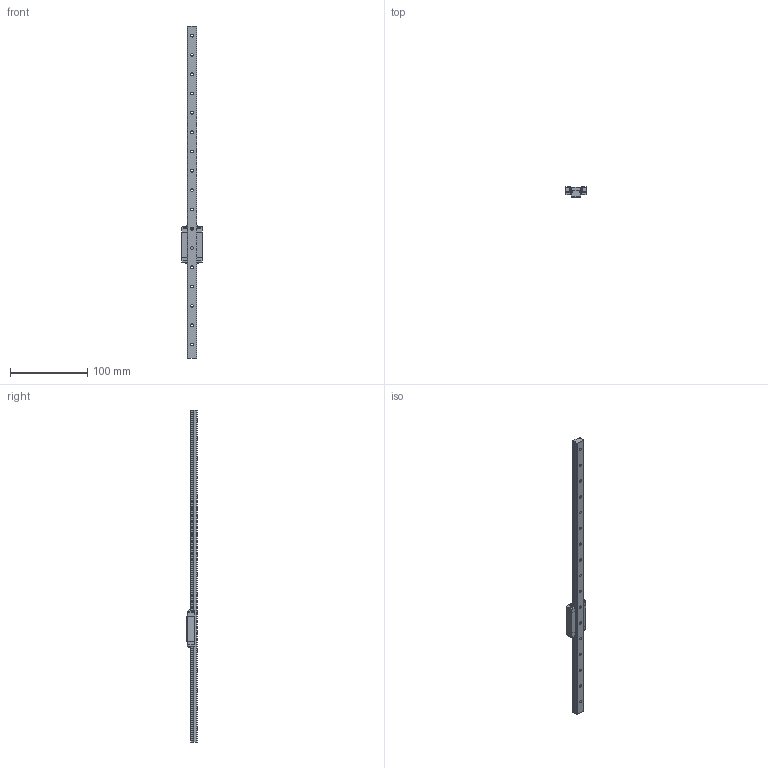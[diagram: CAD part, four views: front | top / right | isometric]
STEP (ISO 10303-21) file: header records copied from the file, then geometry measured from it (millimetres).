
FILE_DESCRIPTION(/* description */ (''),/* implementation_level */ '2;1');
FILE_NAME(/* name */ 'MGN12H 430MM Assembly.step',/* time_stamp */ '2026-04-01T15:37:31+05:30',/* author */ (''),/* organization */ (''),/* preprocessor_version */ 'ST-DEVELOPER v20.1',/* originating_system */ 'Autodesk Translation Framework v14.24.0.0',/* authorisation */ '');
FILE_SCHEMA (('AUTOMOTIVE_DESIGN { 1 0 10303 214 3 1 1 }'));
Length unit declared in the file: millimetre
Products named in the file (8): MGN12H 430MM Assembly; MGN12H Rail; MGN12H; MGN12H_Body; MGN12H_EndCap; MGN12H_Seal; MGN12H_Cage; MGN12H_Ball
Assembly tree (43 placements, depth 3):
  MGN12H 430MM Assembly
    MGN12H Rail
    MGN12H
      MGN12H_Body
      MGN12H_EndCap  x2
      MGN12H_Seal  x2
      MGN12H_Cage  x2
      MGN12H_Ball  x34
Bounding box: 27 x 13 x 430 mm (x, y, z)
Volume: 45699.7 mm3; surface area: 27874.6 mm2
Topology: 42 solids, 42 shells, 605 faces, 1610 edges, 1070 vertices
Faces by surface type: plane 381, cylinder 134, bspline 48, sphere 34, cone 4, torus 4
Full cylindrical faces by diameter (mm): 0.5 x6, 2 x4, 2.65 x28, 3 x4, 3.5 x17, 6 x17
Entity records: 20611 total; most frequent: CARTESIAN_POINT 10648, ORIENTED_EDGE 2040, DIRECTION 1869, EDGE_CURVE 1020, VERTEX_POINT 679, LINE 653, VECTOR 653, AXIS2_PLACEMENT_3D 608
